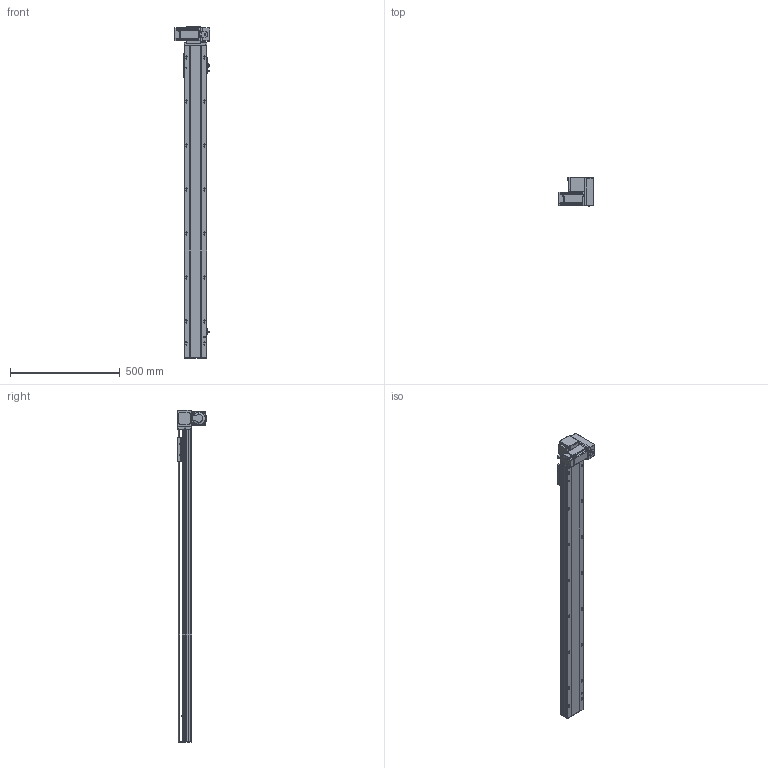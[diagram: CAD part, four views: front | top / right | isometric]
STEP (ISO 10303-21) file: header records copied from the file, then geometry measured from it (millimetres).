
FILE_DESCRIPTION (( 'STEP AP214' ), '1' );
FILE_NAME ('TPT10-L32-1200-RD-T10-C4.STEP', '2023-03-03T03:22:17', ( '' ), ( '' ), 'SwSTEP 2.0', 'SolidWorks 2020', '' );
FILE_SCHEMA (( 'AUTOMOTIVE_DESIGN' ));
Length unit declared in the file: millimetre
Products named in the file (12): 葩璃 侂狟400W^TPT10-L32-RD-T10-C4; TPT10-L32-1200-RD-T10-C4; 葩璃 侂狟100W^TPT10-L32-RD-T10-C4; 葩璃 TPT10-L-007 々湍釱MZ-169x88^TPT10-L32-RD-T10-C4_L; hex nuts, style 1-grades ab gb_GB_FASTENER_NUT_SNAB1 M3-N; 葩璃 TPT10-L-009 萇儂啣^TPT10-L32-RD-T10-C4_100W; hexagon socket head cap screws gb_GB_FASTENER_SCREWS_HSHCS M3X6-N; 葩璃 TPT10-L-002 奻裔MZ-102A-02^TPT10-L32-RD-T10-C4; hexagon head bolts-full thread gb_GB_FASTENER_BOLT_STBAB A M5X16-N; 葩璃 TPT10-L-001 菁釱MZ-102A-01^TPT10-L32-RD-T10-C4; 葩璃 TPT10-L-005 賑釱MZ-102A-03^TPT10-L32-RD-T10-C4; 葩璃 pm-t65-672^TPT10-L32-RD-T10-C4
Assembly tree (23 placements, depth 2):
  TPT10-L32-1200-RD-T10-C4
    葩璃 TPT10-L-001 菁釱MZ-102A-01^TPT10-L32-RD-T10-C4
    葩璃 TPT10-L-002 奻裔MZ-102A-02^TPT10-L32-RD-T10-C4
    葩璃 TPT10-L-007 々湍釱MZ-169x88^TPT10-L32-RD-T10-C4_L
    葩璃 TPT10-L-005 賑釱MZ-102A-03^TPT10-L32-RD-T10-C4
    葩璃 TPT10-L-009 萇儂啣^TPT10-L32-RD-T10-C4_100W
    葩璃 pm-t65-672^TPT10-L32-RD-T10-C4  x3
    葩璃 侂狟100W^TPT10-L32-RD-T10-C4
    葩璃 侂狟400W^TPT10-L32-RD-T10-C4
    hexagon head bolts-full thread gb_GB_FASTENER_BOLT_STBAB A M5X16-N
    hexagon socket head cap screws gb_GB_FASTENER_SCREWS_HSHCS M3X6-N  x6
    hex nuts, style 1-grades ab gb_GB_FASTENER_NUT_SNAB1 M3-N  x6
Bounding box: 160.7 x 134.65 x 1510 mm (x, y, z)
Volume: 5085039.7 mm3; surface area: 1004420.7 mm2
Topology: 31 solids, 31 shells, 1961 faces, 5143 edges, 3285 vertices
Faces by surface type: plane 1062, cylinder 647, cone 206, bspline 34, torus 12
Entity records: 50049 total; most frequent: CARTESIAN_POINT 9880, DIRECTION 8174, ORIENTED_EDGE 7886, EDGE_CURVE 3943, AXIS2_PLACEMENT_3D 2884, VERTEX_POINT 2576, LINE 2406, VECTOR 2406
